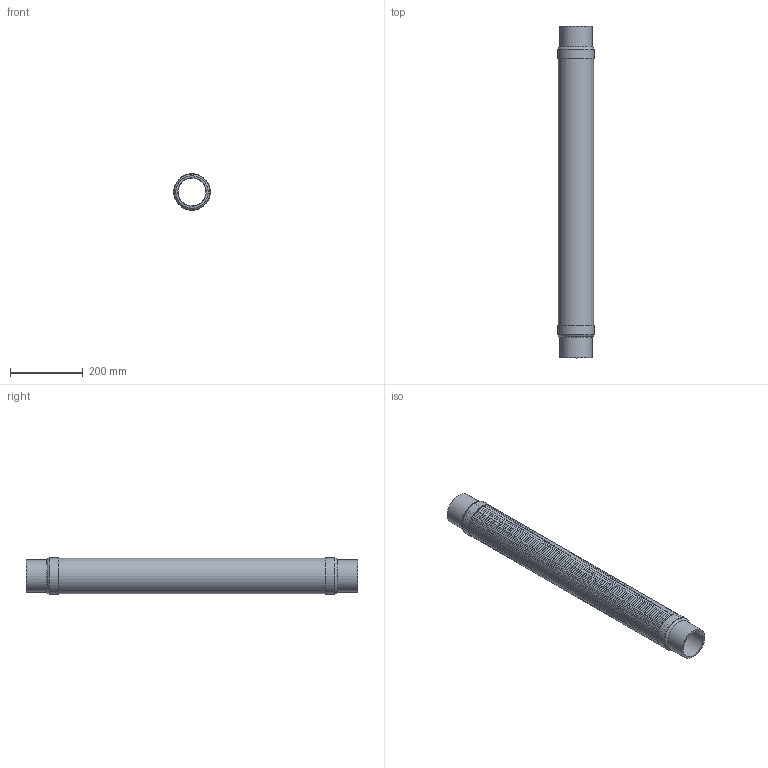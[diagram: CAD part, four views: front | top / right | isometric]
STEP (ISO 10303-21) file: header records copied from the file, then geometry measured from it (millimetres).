
FILE_DESCRIPTION((''),'2;1');
FILE_NAME('C:\2012_Work\Designs\MN\MN-3x36.stp','2013-08-09T17:43:56',('KShiels'),(''),'Autodesk Inventor 2012','Autodesk Inventor 2012','');
FILE_SCHEMA(('AUTOMOTIVE_DESIGN { 1 0 10303 214 1 1 1 1 }'));
Length unit declared in the file: inch
Products named in the file (6): MN-3x36; MN-3x36_Welds; A-30101-5-3MN-BRAID; A-30101-5_3MN-THREADED_NIPPLE; A-30101-5_3MN-BELLOWS; A-30101-5_3MN-BRAID-COLLAR
Assembly tree (7 placements, depth 2):
  MN-3x36
    MN-3x36_Welds
    A-30101-5-3MN-BRAID
    A-30101-5_3MN-THREADED_NIPPLE  x2
    A-30101-5_3MN-BELLOWS
    A-30101-5_3MN-BRAID-COLLAR  x2
Bounding box: 100.22 x 914.4 x 100.22 mm (x, y, z)
Volume: 627149.9 mm3; surface area: 2144140.9 mm2
Topology: 8 solids, 8 shells, 982 faces, 1484 edges, 992 vertices
Faces by surface type: plane 490, torus 478, cylinder 12, bspline 2
Full cylindrical faces by diameter (mm): 77.927 x2, 88.9 x4, 97.028 x1, 97.841 x3, 100.222 x2
Entity records: 20246 total; most frequent: DIRECTION 3910, CARTESIAN_POINT 3453, ORIENTED_EDGE 1960, AXIS2_PLACEMENT_3D 1955, EDGE_LOOP 1946, EDGE_CURVE 980, VERTEX_POINT 978, FACE_OUTER_BOUND 974
